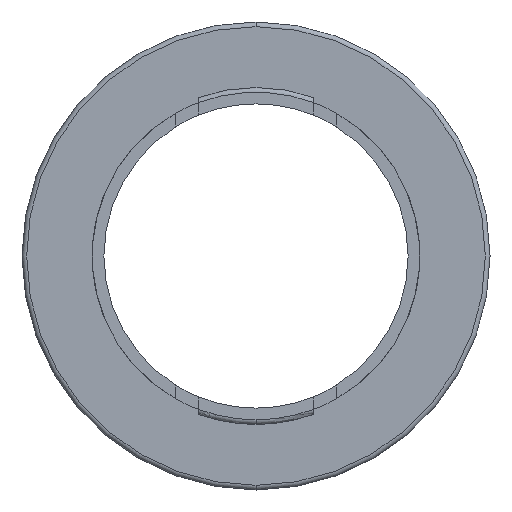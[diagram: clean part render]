
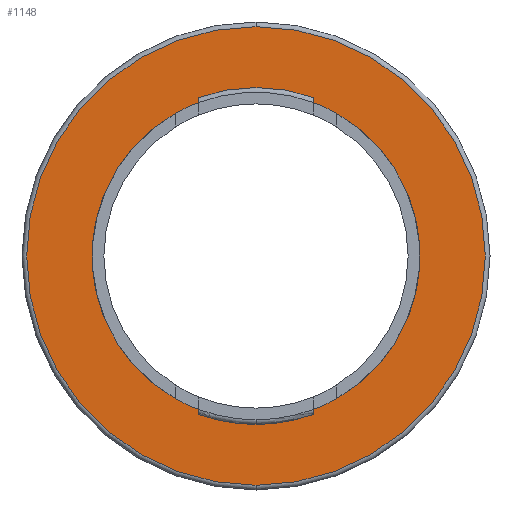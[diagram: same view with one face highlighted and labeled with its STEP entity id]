
A CAD part, front view. The second image highlights one B-rep face of the part: STEP entity #1148.
In plain terms, the highlighted planar face has unit normal (0, -1, 0).
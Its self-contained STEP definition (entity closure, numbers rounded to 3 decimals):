
#125 = CIRCLE ( 'NONE', #1632, 19.6 ) ;
#279 = DIRECTION ( 'NONE',  ( 0., -1., 0. ) ) ;
#348 = PLANE ( 'NONE',  #637 ) ;
#391 = DIRECTION ( 'NONE',  ( 0., -1., 0. ) ) ;
#428 = CARTESIAN_POINT ( 'NONE',  ( 0., -0.5, 0. ) ) ;
#495 = ORIENTED_EDGE ( 'NONE', *, *, #1301, .T. ) ;
#544 = DIRECTION ( 'NONE',  ( 0., -1., 0. ) ) ;
#596 = VERTEX_POINT ( 'NONE', #1690 ) ;
#614 = CARTESIAN_POINT ( 'NONE',  ( 0., -0.5, 0. ) ) ;
#637 = AXIS2_PLACEMENT_3D ( 'NONE', #1829, #391, #1023 ) ;
#689 = AXIS2_PLACEMENT_3D ( 'NONE', #1247, #1549, #1067 ) ;
#769 = EDGE_LOOP ( 'NONE', ( #1032, #1606 ) ) ;
#951 = CIRCLE ( 'NONE', #1403, 14. ) ;
#1004 = AXIS2_PLACEMENT_3D ( 'NONE', #614, #279, #1554 ) ;
#1023 = DIRECTION ( 'NONE',  ( 0., 0., 1. ) ) ;
#1032 = ORIENTED_EDGE ( 'NONE', *, *, #1724, .F. ) ;
#1053 = VERTEX_POINT ( 'NONE', #1513 ) ;
#1067 = DIRECTION ( 'NONE',  ( 0., 0., -1. ) ) ;
#1071 = VERTEX_POINT ( 'NONE', #1350 ) ;
#1148 = ADVANCED_FACE ( 'NONE', ( #1307, #1782 ), #348, .T. ) ;
#1233 = DIRECTION ( 'NONE',  ( 0., 0., -1. ) ) ;
#1247 = CARTESIAN_POINT ( 'NONE',  ( 0., -0.5, 0. ) ) ;
#1301 = EDGE_CURVE ( 'NONE', #596, #1640, #1912, .T. ) ;
#1307 = FACE_OUTER_BOUND ( 'NONE', #2022, .T. ) ;
#1325 = EDGE_CURVE ( 'NONE', #1071, #1053, #951, .T. ) ;
#1342 = DIRECTION ( 'NONE',  ( 0., -1., 0. ) ) ;
#1350 = CARTESIAN_POINT ( 'NONE',  ( 0., -0.5, -14. ) ) ;
#1352 = EDGE_CURVE ( 'NONE', #1640, #596, #125, .T. ) ;
#1394 = DIRECTION ( 'NONE',  ( 0., 0., -1. ) ) ;
#1403 = AXIS2_PLACEMENT_3D ( 'NONE', #1895, #1342, #1233 ) ;
#1513 = CARTESIAN_POINT ( 'NONE',  ( 0., -0.5, 14. ) ) ;
#1549 = DIRECTION ( 'NONE',  ( 0., -1., 0. ) ) ;
#1554 = DIRECTION ( 'NONE',  ( 0., 0., -1. ) ) ;
#1606 = ORIENTED_EDGE ( 'NONE', *, *, #1325, .F. ) ;
#1612 = CARTESIAN_POINT ( 'NONE',  ( 0., -0.5, 19.6 ) ) ;
#1632 = AXIS2_PLACEMENT_3D ( 'NONE', #428, #544, #1394 ) ;
#1640 = VERTEX_POINT ( 'NONE', #1612 ) ;
#1690 = CARTESIAN_POINT ( 'NONE',  ( 0., -0.5, -19.6 ) ) ;
#1698 = CIRCLE ( 'NONE', #689, 14. ) ;
#1715 = ORIENTED_EDGE ( 'NONE', *, *, #1352, .T. ) ;
#1724 = EDGE_CURVE ( 'NONE', #1053, #1071, #1698, .T. ) ;
#1782 = FACE_BOUND ( 'NONE', #769, .T. ) ;
#1829 = CARTESIAN_POINT ( 'NONE',  ( 0., -0.5, 0. ) ) ;
#1895 = CARTESIAN_POINT ( 'NONE',  ( 0., -0.5, 0. ) ) ;
#1912 = CIRCLE ( 'NONE', #1004, 19.6 ) ;
#2022 = EDGE_LOOP ( 'NONE', ( #495, #1715 ) ) ;
